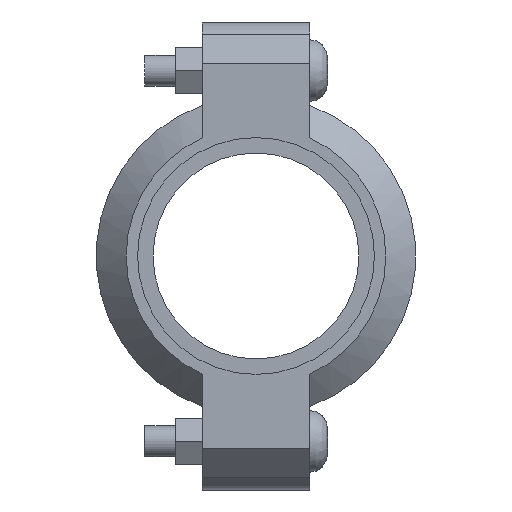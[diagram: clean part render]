
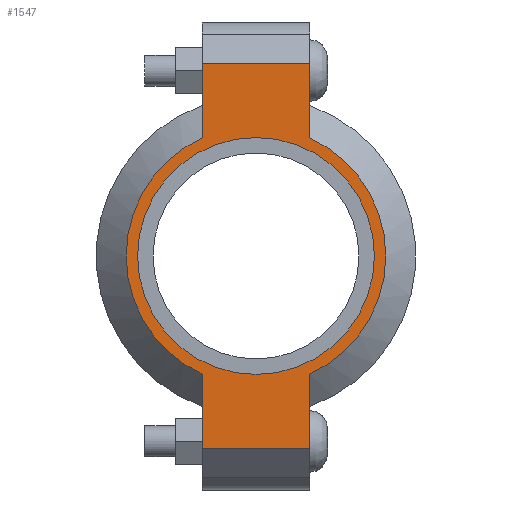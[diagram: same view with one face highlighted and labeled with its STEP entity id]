
A CAD part, left-side view. The second image highlights one B-rep face of the part: STEP entity #1547.
In plain terms, the highlighted planar face has unit normal (-1, 0, 0) as drawn and (0, 0, 1) by its records, which use the part's own axes.
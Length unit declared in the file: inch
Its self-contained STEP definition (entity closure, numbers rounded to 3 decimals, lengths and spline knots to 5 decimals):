
#170=LINE('',#2659,#263);
#178=LINE('',#2695,#271);
#185=LINE('',#2716,#278);
#194=LINE('',#2748,#287);
#195=LINE('',#2752,#288);
#196=LINE('',#2754,#289);
#263=VECTOR('',#2163,0.3937);
#271=VECTOR('',#2179,0.3937);
#278=VECTOR('',#2198,0.3937);
#287=VECTOR('',#2223,0.3937);
#288=VECTOR('',#2228,0.3937);
#289=VECTOR('',#2229,0.3937);
#345=FACE_BOUND('',#523,.T.);
#417=FACE_OUTER_BOUND('',#522,.T.);
#522=EDGE_LOOP('',(#1287,#1288,#1289,#1290,#1291,#1292,#1293,#1294));
#523=EDGE_LOOP('',(#1295));
#595=CIRCLE('',#1729,1.4375);
#621=CIRCLE('',#1788,1.575);
#622=CIRCLE('',#1789,1.575);
#687=VERTEX_POINT('',#2475);
#730=VERTEX_POINT('',#2656);
#731=VERTEX_POINT('',#2658);
#742=VERTEX_POINT('',#2690);
#743=VERTEX_POINT('',#2694);
#750=VERTEX_POINT('',#2713);
#751=VERTEX_POINT('',#2715);
#761=VERTEX_POINT('',#2751);
#762=VERTEX_POINT('',#2753);
#843=EDGE_CURVE('',#687,#687,#595,.T.);
#904=EDGE_CURVE('',#731,#730,#170,.T.);
#918=EDGE_CURVE('',#743,#742,#178,.T.);
#928=EDGE_CURVE('',#751,#750,#185,.T.);
#943=EDGE_CURVE('',#743,#730,#194,.T.);
#944=EDGE_CURVE('',#742,#751,#621,.T.);
#945=EDGE_CURVE('',#761,#750,#195,.T.);
#946=EDGE_CURVE('',#761,#762,#196,.T.);
#947=EDGE_CURVE('',#762,#731,#622,.T.);
#1287=ORIENTED_EDGE('',*,*,#943,.F.);
#1288=ORIENTED_EDGE('',*,*,#918,.T.);
#1289=ORIENTED_EDGE('',*,*,#944,.T.);
#1290=ORIENTED_EDGE('',*,*,#928,.T.);
#1291=ORIENTED_EDGE('',*,*,#945,.F.);
#1292=ORIENTED_EDGE('',*,*,#946,.T.);
#1293=ORIENTED_EDGE('',*,*,#947,.T.);
#1294=ORIENTED_EDGE('',*,*,#904,.T.);
#1295=ORIENTED_EDGE('',*,*,#843,.T.);
#1388=PLANE('',#1787);
#1547=ADVANCED_FACE('',(#417,#345),#1388,.T.);
#1729=AXIS2_PLACEMENT_3D('',#2477,#2039,#2040);
#1787=AXIS2_PLACEMENT_3D('',#2749,#2224,#2225);
#1788=AXIS2_PLACEMENT_3D('',#2750,#2226,#2227);
#1789=AXIS2_PLACEMENT_3D('',#2755,#2230,#2231);
#2039=DIRECTION('center_axis',(0.,0.,-1.));
#2040=DIRECTION('ref_axis',(-1.,0.,0.));
#2163=DIRECTION('',(-1.,0.,0.));
#2179=DIRECTION('',(1.,0.,0.));
#2198=DIRECTION('',(1.,0.,0.));
#2223=DIRECTION('',(0.,1.,0.));
#2224=DIRECTION('center_axis',(0.,0.,1.));
#2225=DIRECTION('ref_axis',(1.,0.,0.));
#2226=DIRECTION('center_axis',(0.,0.,1.));
#2227=DIRECTION('ref_axis',(-1.,0.,0.));
#2228=DIRECTION('',(0.,-1.,0.));
#2229=DIRECTION('',(-1.,0.,0.));
#2230=DIRECTION('center_axis',(0.,0.,1.));
#2231=DIRECTION('ref_axis',(-1.,0.,0.));
#2475=CARTESIAN_POINT('',(1.4375,0.,0.94));
#2477=CARTESIAN_POINT('Origin',(0.,0.,0.94));
#2656=CARTESIAN_POINT('',(-2.34,0.65,0.94));
#2658=CARTESIAN_POINT('',(-1.43462,0.65,0.94));
#2659=CARTESIAN_POINT('',(-2.84,0.65,0.94));
#2690=CARTESIAN_POINT('',(-1.43462,-0.65,0.94));
#2694=CARTESIAN_POINT('',(-2.34,-0.65,0.94));
#2695=CARTESIAN_POINT('',(2.84,-0.65,0.94));
#2713=CARTESIAN_POINT('',(2.34,-0.65,0.94));
#2715=CARTESIAN_POINT('',(1.43462,-0.65,0.94));
#2716=CARTESIAN_POINT('',(2.84,-0.65,0.94));
#2748=CARTESIAN_POINT('',(-2.34,0.325,0.94));
#2749=CARTESIAN_POINT('Origin',(0.,0.,
0.94));
#2750=CARTESIAN_POINT('Origin',(0.,0.,0.94));
#2751=CARTESIAN_POINT('',(2.34,0.65,0.94));
#2752=CARTESIAN_POINT('',(2.34,-0.325,0.94));
#2753=CARTESIAN_POINT('',(1.43462,0.65,0.94));
#2754=CARTESIAN_POINT('',(-2.84,0.65,0.94));
#2755=CARTESIAN_POINT('Origin',(0.,0.,0.94));
